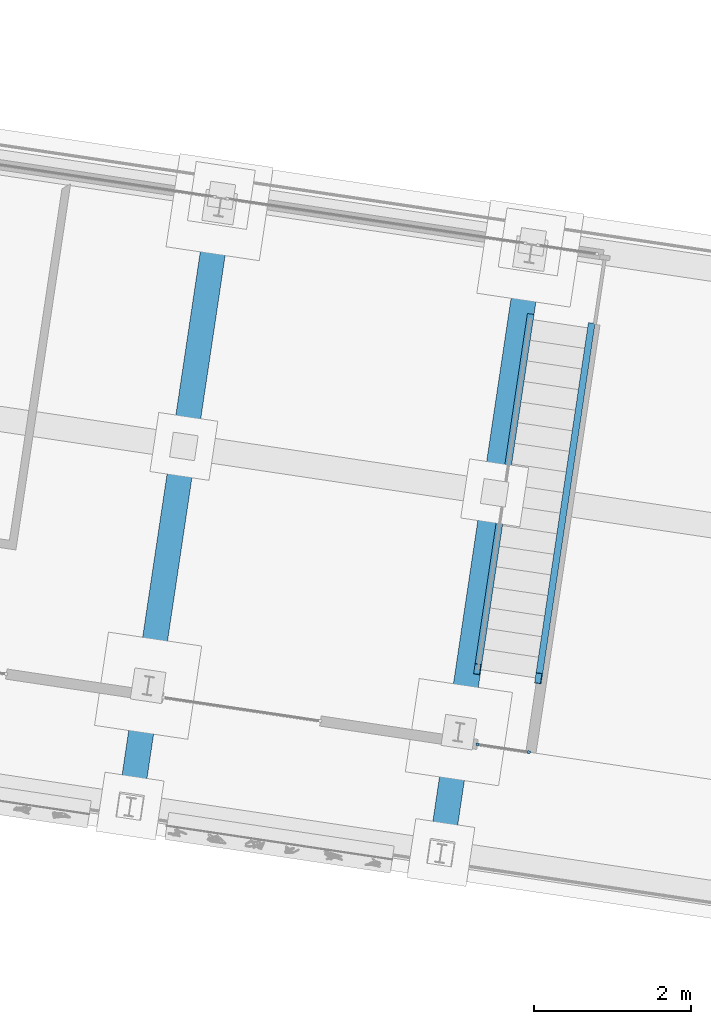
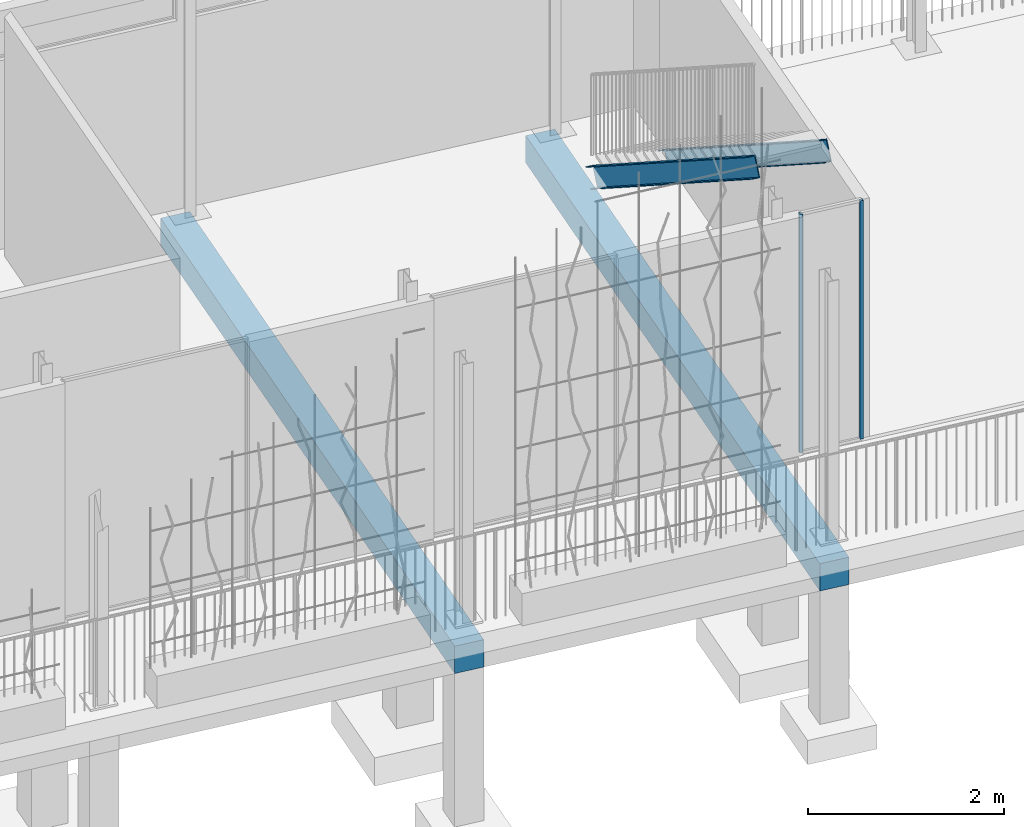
# One storey, part 97 of 143: 4 members, 2 beams, 2 elements without a shape of their own.
"""IFC4 building model written with IfcOpenShell, lengths in metres."""

from ifc_helpers import new_model, si_unit, direction, frame, origin_with_axes, place, context, subcontext, project, spatial, polyline, rectangle, outline, extrude, material, material_profile, profile_set, profile_usage, type_object, element, aggregate, save


model = new_model("IFC4")

# Units and contexts
model_context = context("Model", 3, precision=1e-05, world=origin_with_axes(), true_north=direction((0.0, 1.0)))
body_context = subcontext(model_context, "Body", "Model", "MODEL_VIEW")
ifc_project = project(units=[si_unit("VOLUMEUNIT", "CUBIC_METRE"), si_unit("LENGTHUNIT", "METRE"), si_unit("AREAUNIT", "SQUARE_METRE")], contexts=[model_context])

# Site, building, storey
site_placement = place(None, origin_with_axes())
site = spatial("IfcSite", under=ifc_project, at=site_placement, Name="Lares · Rua das Mercês · artigo 4771")
building_placement = place(site_placement, frame((15.0, 9.7, 15.8), z_axis=(0.0, 0.0, 1.0), x_axis=(0.989015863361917, -0.147809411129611, 0.0)))
building = spatial("IfcBuilding", under=site, at=building_placement, Name="Casa Sobreposta")
storey_placement = place(building_placement, origin_with_axes())
storey = spatial("IfcBuildingStorey", under=building, at=storey_placement, Name="00 · Habitação e estacionamento", Elevation=15.8)

# Members
ifc_material_1 = material(Name="Aço pintado / Stahl lackiert", Category="steel")
ifc_material_profile_1 = material_profile(ifc_material_1, rectangle(XDim=0.035, YDim=0.035))
ifc_profile_set_1 = profile_set([ifc_material_profile_1], Name="R0.035")
ifc_profile_usage_1 = profile_usage(ifc_profile_set_1)
member_type_1 = type_object("IfcMemberType", Name="R0.035 / steel", PredefinedType="NOTDEFINED", material=ifc_profile_set_1)
member_1_placement = place(storey_placement, frame((24.256, 0.0, 0.0), z_axis=(0.0, 0.0, 1.0), x_axis=(1.0, 0.0, 0.0)))
element("IfcMember", 1, at=member_1_placement, inside=storey, type_object=member_type_1, material=ifc_profile_usage_1, Name="Folha de correr sul 12 · montante", context=body_context, shape_type="SweptSolid", body=[
    extrude(rectangle(XDim=0.035, YDim=0.035), origin_with_axes(), (0.0, 0.0, 1.0), 2.968),
])
ifc_profile_usage_2 = profile_usage(ifc_profile_set_1)
member_2_placement = place(storey_placement, frame((24.92, 0.0, 0.0), z_axis=(0.0, 0.0, 1.0), x_axis=(1.0, 0.0, 0.0)))
element("IfcMember", 2, at=member_2_placement, inside=storey, type_object=member_type_1, material=ifc_profile_usage_2, Name="Folha de correr sul 12 · montante", context=body_context, shape_type="SweptSolid", body=[
    extrude(rectangle(XDim=0.035, YDim=0.035), origin_with_axes(), (0.0, 0.0, 1.0), 2.968),
])

# Stair, members
stair_placement = place(storey_placement, origin_with_axes())
stair = element("IfcStair", 3, at=stair_placement, inside=storey, Name="Escada garagem", PredefinedType="STRAIGHT_RUN_STAIR")
ifc_material_profile_2 = material_profile(ifc_material_1, outline(polyline([(-0.0425, -0.12), (0.0425, -0.12), (0.0425, -0.1102), (-0.0325, -0.1102), (-0.0325, 0.1102), (0.0425, 0.1102), (0.0425, 0.12), (-0.0425, 0.12), (-0.0425, -0.12)])))
ifc_profile_set_2 = profile_set([ifc_material_profile_2], Name="C240")
ifc_profile_usage_3 = profile_usage(ifc_profile_set_2)
member_type_2 = type_object("IfcMemberType", Name="C240 / steel", PredefinedType="NOTDEFINED", material=ifc_profile_set_2)
member_3_placement = place(stair_placement, frame((24.1175, 5.4525, -0.1), z_axis=(0.0, -0.827216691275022, 0.561883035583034), x_axis=(-1.0, 0.0, 0.0)))
member_3 = element("IfcMember", 4, at=member_3_placement, type_object=member_type_2, material=ifc_profile_usage_3, Name="Longarina metálica garagem", context=body_context, shape_type="SweptSolid", body=[
    extrude(outline(polyline([(-0.0425, -0.12), (0.0425, -0.12), (0.0425, -0.1102), (-0.0325, -0.1102), (-0.0325, 0.1102), (0.0425, 0.1102), (0.0425, 0.12), (-0.0425, 0.12), (-0.0425, -0.12)])), origin_with_axes(), (0.0, 0.0, 1.0), 5.44597328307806),
])
ifc_profile_usage_4 = profile_usage(ifc_profile_set_2)
member_4_placement = place(stair_placement, frame((24.9025, 5.4525, -0.1), z_axis=(0.0, -0.827216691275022, 0.561883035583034), x_axis=(-1.0, 0.0, 0.0)))
member_4 = element("IfcMember", 5, at=member_4_placement, type_object=member_type_2, material=ifc_profile_usage_4, Name="Longarina metálica garagem", context=body_context, shape_type="SweptSolid", body=[
    extrude(outline(polyline([(-0.0425, -0.12), (0.0425, -0.12), (0.0425, -0.1102), (-0.0325, -0.1102), (-0.0325, 0.1102), (0.0425, 0.1102), (0.0425, 0.12), (-0.0425, 0.12), (-0.0425, -0.12)])), origin_with_axes(), (0.0, 0.0, 1.0), 5.44597328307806),
])
aggregate(stair, [member_3, member_4])

# Assembly, beams
assembly_placement = place(storey_placement, origin_with_axes())
assembly = element("IfcElementAssembly", 6, at=assembly_placement, inside=storey, Name="Pódio · terraço, casa térrea e cisterna", ObjectType="CISTERN_PODIUM", PredefinedType="USERDEFINED")
ifc_material_2 = material(Name="Betão armado / Stahlbeton", Category="concrete")
beam_1_placement = place(assembly_placement, frame((0.0, 0.0, -0.59), z_axis=(0.0, 0.0, 1.0), x_axis=(1.0, 0.0, 0.0)))
beam_1 = element("IfcBeam", 7, at=beam_1_placement, material=ifc_material_2, Name="Pódio suspenso · viga transversal", context=body_context, shape_type="SweptSolid", body=[
    extrude(outline(polyline([(20.16, -1.59), (20.16, 6.59), (19.84, 6.59), (19.84, -1.59), (20.16, -1.59)])), origin_with_axes(), (0.0, 0.0, 1.0), 0.34),
])
beam_2_placement = place(assembly_placement, frame((0.0, 0.0, -0.59), z_axis=(0.0, 0.0, 1.0), x_axis=(1.0, 0.0, 0.0)))
beam_2 = element("IfcBeam", 8, at=beam_2_placement, material=ifc_material_2, Name="Pódio suspenso · viga transversal", context=body_context, shape_type="SweptSolid", body=[
    extrude(outline(polyline([(24.16, -1.59), (24.16, 6.59), (23.84, 6.59), (23.84, -1.59), (24.16, -1.59)])), origin_with_axes(), (0.0, 0.0, 1.0), 0.34),
])
aggregate(assembly, [beam_1, beam_2])

save(model, "model.ifc")
